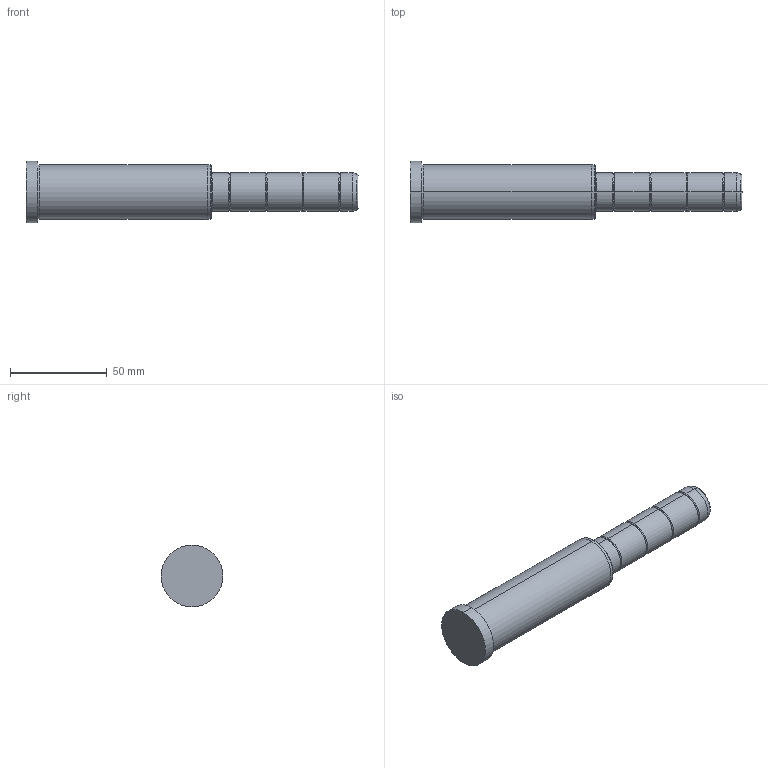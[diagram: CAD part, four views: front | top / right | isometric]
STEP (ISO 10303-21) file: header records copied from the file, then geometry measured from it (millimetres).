
FILE_DESCRIPTION( ( 'STEP AP203' ), '1' );
FILE_NAME( 'C:/Projects/D02 - 20x96x76.step', '2003-01-04T13:46:00', ( ' ' ), ( ' ' ), 'XStep 1.0', ' ', ' ' );
FILE_SCHEMA( ( 'CONFIG_CONTROL_DESIGN' ) );
Length unit declared in the file: metre
Products named in the file (1): 1
Bounding box: 172 x 32 x 32 mm (x, y, z)
Volume: 84011.6 mm3; surface area: 14939.4 mm2
Topology: 1 solids, 1 shells, 48 faces, 94 edges, 52 vertices
Faces by surface type: bspline 26, revolution 22
Entity records: 1523 total; most frequent: CARTESIAN_POINT 617, ORIENTED_EDGE 188, DIRECTION 150, EDGE_CURVE 94, AXIS2_PLACEMENT_3D 53, EDGE_LOOP 52, VERTEX_POINT 52, CIRCLE 52
